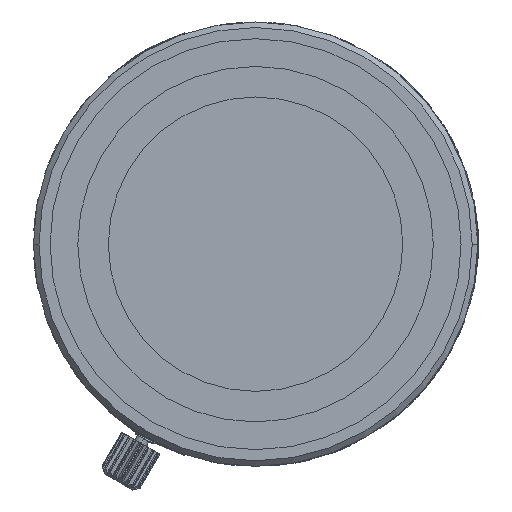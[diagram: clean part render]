
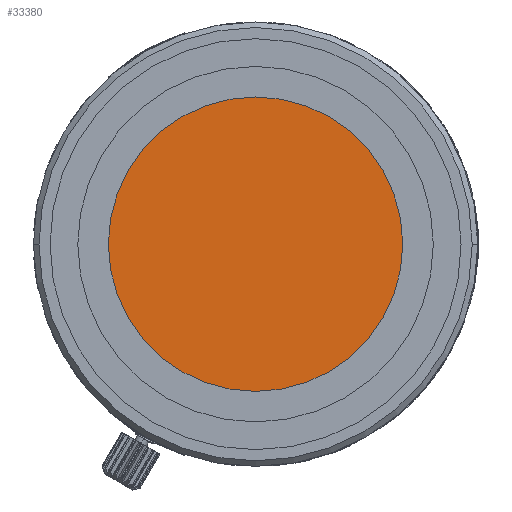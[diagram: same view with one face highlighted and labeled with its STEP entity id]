
A CAD part, left-side view. The second image highlights one B-rep face of the part: STEP entity #33380.
In plain terms, the highlighted planar face has unit normal (-1, 0, 0).
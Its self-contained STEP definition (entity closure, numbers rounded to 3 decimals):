
#9211=CARTESIAN_POINT('',(-3.777,0.,0.));
#9212=DIRECTION('',(1.,0.,0.));
#9213=DIRECTION('',(0.,1.,0.));
#9214=AXIS2_PLACEMENT_3D('',#9211,#9212,#9213);
#9216=CARTESIAN_POINT('',(-3.777,0.,0.));
#9217=DIRECTION('',(1.,0.,0.));
#9218=DIRECTION('',(0.,-1.,0.));
#9219=AXIS2_PLACEMENT_3D('',#9216,#9217,#9218);
#23803=CARTESIAN_POINT('',(-3.777,17.75,0.));
#23804=CARTESIAN_POINT('',(-3.777,-17.75,0.));
#23805=VERTEX_POINT('',#23803);
#23806=VERTEX_POINT('',#23804);
#33370=CARTESIAN_POINT('',(-3.777,0.,0.));
#33371=DIRECTION('',(-1.,0.,0.));
#33372=DIRECTION('',(0.,0.956,-0.292));
#33373=AXIS2_PLACEMENT_3D('',#33370,#33371,#33372);
#33374=PLANE('',#33373);
#33375=ORIENTED_EDGE('',*,*,#33360,.T.);
#33377=ORIENTED_EDGE('',*,*,#33376,.T.);
#33378=EDGE_LOOP('',(#33375,#33377));
#33379=FACE_OUTER_BOUND('',#33378,.F.);
#9215=CIRCLE('',#9214,17.75);
#9220=CIRCLE('',#9219,17.75);
#33360=EDGE_CURVE('',#23805,#23806,#9215,.T.);
#33376=EDGE_CURVE('',#23806,#23805,#9220,.T.);
#33380=ADVANCED_FACE('',(#33379),#33374,.T.);
